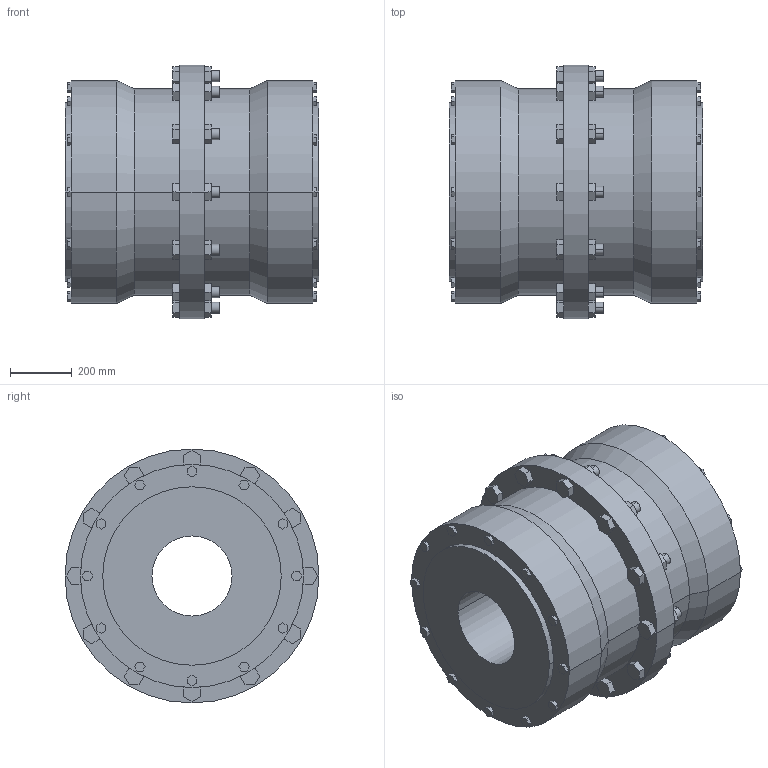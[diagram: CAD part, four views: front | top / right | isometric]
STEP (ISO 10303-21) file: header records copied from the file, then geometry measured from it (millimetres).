
FILE_DESCRIPTION((''),'2;1');
FILE_NAME('A18987200-0_ASM','2018-09-26T',('AB_Roschiwal'),('RENK AG'),'PRO/ENGINEER BY PARAMETRIC TECHNOLOGY CORPORATION, 2015440','PRO/ENGINEER BY PARAMETRIC TECHNOLOGY CORPORATION, 2015440','');
FILE_SCHEMA(('CONFIG_CONTROL_DESIGN'));
Length unit declared in the file: millimetre
Products named in the file (3): SBK355_GEHAEUSE; SBK355_NABE; A18987200-0_ASM
Assembly tree (3 placements, depth 2):
  A18987200-0_ASM
    SBK355_GEHAEUSE
    SBK355_NABE  x2
Bounding box: 825 x 825 x 825 mm (x, y, z)
Volume: 264869337.5 mm3; surface area: 7190851.5 mm2
Topology: 3 solids, 3 shells, 422 faces, 1036 edges, 688 vertices
Faces by surface type: plane 362, cylinder 56, cone 4
Entity records: 12052 total; most frequent: CARTESIAN_POINT 2100, ORIENTED_EDGE 2024, DIRECTION 1940, EDGE_CURVE 1012, VECTOR 916, LINE 916, VERTEX_POINT 672, AXIS2_PLACEMENT_3D 512
